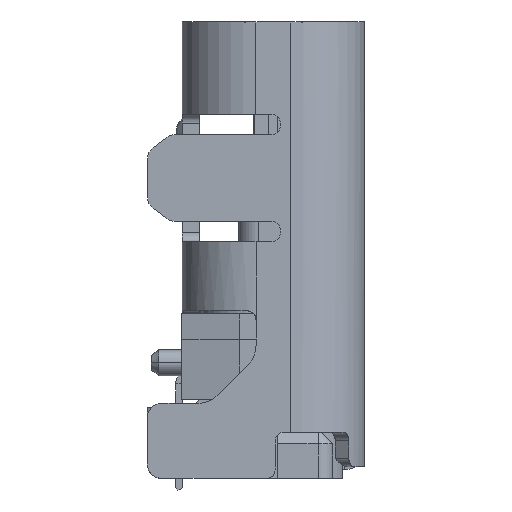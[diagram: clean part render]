
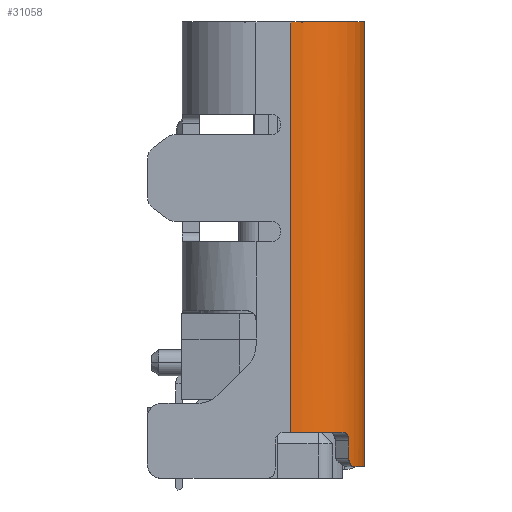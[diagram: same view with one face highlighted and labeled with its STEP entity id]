
A CAD part, left-side view. The second image highlights one B-rep face of the part: STEP entity #31058.
In plain terms, the highlighted cylindrical face has radius 1.28 mm (diameter 2.56 mm), a partial arc.
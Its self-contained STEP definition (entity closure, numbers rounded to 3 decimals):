
#23548=CARTESIAN_POINT('',(-3.19,-0.3,5.1));
#23549=DIRECTION('',(0.,0.,1.));
#23550=DIRECTION('',(-1.,0.,0.));
#23551=AXIS2_PLACEMENT_3D('',#23548,#23549,#23550);
#24561=DIRECTION('',(0.,0.,-1.));
#24562=VECTOR('',#24561,0.3);
#24563=CARTESIAN_POINT('',(-3.982,-1.306,
-2.15));
#24564=LINE('',#24563,#24562);
#24565=DIRECTION('',(0.,0.,-1.));
#24566=VECTOR('',#24565,7.1);
#24567=CARTESIAN_POINT('',(-4.47,-0.3,5.1));
#24568=LINE('',#24567,#24566);
#24569=DIRECTION('',(0.,0.,1.));
#24570=VECTOR('',#24569,7.7);
#24571=CARTESIAN_POINT('',(-3.19,-1.58,-2.6));
#24572=LINE('',#24571,#24570);
#24582=CARTESIAN_POINT('',(-3.19,-0.3,-2.6));
#24583=DIRECTION('',(0.,0.,-1.));
#24584=DIRECTION('',(0.,-1.,0.));
#24585=AXIS2_PLACEMENT_3D('',#24582,#24583,#24584);
#24610=CARTESIAN_POINT('',(-3.858,-1.392,-2.6));
#24611=CARTESIAN_POINT('',(-3.872,-1.383,-2.6));
#24612=CARTESIAN_POINT('',(-3.898,-1.366,
-2.595));
#24613=CARTESIAN_POINT('',(-3.934,-1.342,
-2.573));
#24614=CARTESIAN_POINT('',(-3.961,-1.322,
-2.54));
#24615=CARTESIAN_POINT('',(-3.978,-1.309,
-2.497));
#24616=CARTESIAN_POINT('',(-3.982,-1.306,
-2.466));
#24617=CARTESIAN_POINT('',(-3.982,-1.306,
-2.45));
#24866=CARTESIAN_POINT('',(-3.982,-1.306,
-2.15));
#24867=CARTESIAN_POINT('',(-3.982,-1.306,
-2.134));
#24868=CARTESIAN_POINT('',(-3.986,-1.303,
-2.103));
#24869=CARTESIAN_POINT('',(-4.003,-1.289,
-2.06));
#24870=CARTESIAN_POINT('',(-4.028,-1.267,
-2.027));
#24871=CARTESIAN_POINT('',(-4.06,-1.239,
-2.005));
#24872=CARTESIAN_POINT('',(-4.083,-1.217,-2.));
#24873=CARTESIAN_POINT('',(-4.094,-1.206,-2.));
#24888=CARTESIAN_POINT('',(-3.19,-0.3,-2.));
#24889=DIRECTION('',(0.,0.,-1.));
#24890=DIRECTION('',(-0.706,-0.708,0.));
#24891=AXIS2_PLACEMENT_3D('',#24888,#24889,#24890);
#26998=CARTESIAN_POINT('',(-3.19,-1.58,-2.6));
#27000=VERTEX_POINT('',#26998);
#27024=CARTESIAN_POINT('',(-3.19,-1.58,5.1));
#27025=VERTEX_POINT('',#27024);
#27378=CARTESIAN_POINT('',(-4.47,-0.3,5.1));
#27380=VERTEX_POINT('',#27378);
#27442=CARTESIAN_POINT('',(-4.47,-0.3,-2.));
#27443=VERTEX_POINT('',#27442);
#27629=CARTESIAN_POINT('',(-4.094,-1.206,-2.));
#27630=VERTEX_POINT('',#27629);
#27633=VERTEX_POINT('',#24866);
#27635=CARTESIAN_POINT('',(-3.982,-1.306,
-2.45));
#27636=VERTEX_POINT('',#27635);
#27639=CARTESIAN_POINT('',(-3.858,-1.392,-2.6));
#27641=VERTEX_POINT('',#27639);
#31039=CARTESIAN_POINT('',(-3.19,-0.3,5.1));
#31040=DIRECTION('',(0.,0.,1.));
#31041=DIRECTION('',(1.,0.,0.));
#31042=AXIS2_PLACEMENT_3D('',#31039,#31040,#31041);
#31043=CYLINDRICAL_SURFACE('',#31042,1.28);
#31045=ORIENTED_EDGE('',*,*,#31044,.T.);
#31047=ORIENTED_EDGE('',*,*,#31046,.T.);
#31048=ORIENTED_EDGE('',*,*,#31029,.F.);
#31050=ORIENTED_EDGE('',*,*,#31049,.T.);
#31052=ORIENTED_EDGE('',*,*,#31051,.T.);
#31053=ORIENTED_EDGE('',*,*,#30224,.F.);
#31054=ORIENTED_EDGE('',*,*,#29728,.T.);
#31055=ORIENTED_EDGE('',*,*,#29204,.F.);
#31056=EDGE_LOOP('',(#31045,#31047,#31048,#31050,#31052,#31053,#31054,#31055));
#31057=FACE_OUTER_BOUND('',#31056,.F.);
#23552=CIRCLE('',#23551,1.28);
#24586=CIRCLE('',#24585,1.28);
#24618=B_SPLINE_CURVE_WITH_KNOTS('',3,(#24610,#24611,#24612,#24613,#24614,
#24615,#24616,#24617),.UNSPECIFIED.,.F.,.F.,(4,1,1,1,1,4),(0.,0.2,0.4,
0.6,0.8,1.),.UNSPECIFIED.);
#24874=B_SPLINE_CURVE_WITH_KNOTS('',3,(#24866,#24867,#24868,#24869,#24870,
#24871,#24872,#24873),.UNSPECIFIED.,.F.,.F.,(4,1,1,1,1,4),(0.,0.2,0.4,
0.6,0.8,1.),.UNSPECIFIED.);
#24892=CIRCLE('',#24891,1.28);
#29204=EDGE_CURVE('',#27000,#27025,#24572,.T.);
#29728=EDGE_CURVE('',#27380,#27025,#23552,.T.);
#30224=EDGE_CURVE('',#27380,#27443,#24568,.T.);
#31029=EDGE_CURVE('',#27633,#27636,#24564,.T.);
#31044=EDGE_CURVE('',#27000,#27641,#24586,.T.);
#31046=EDGE_CURVE('',#27641,#27636,#24618,.T.);
#31049=EDGE_CURVE('',#27633,#27630,#24874,.T.);
#31051=EDGE_CURVE('',#27630,#27443,#24892,.T.);
#31058=ADVANCED_FACE('',(#31057),#31043,.T.);
